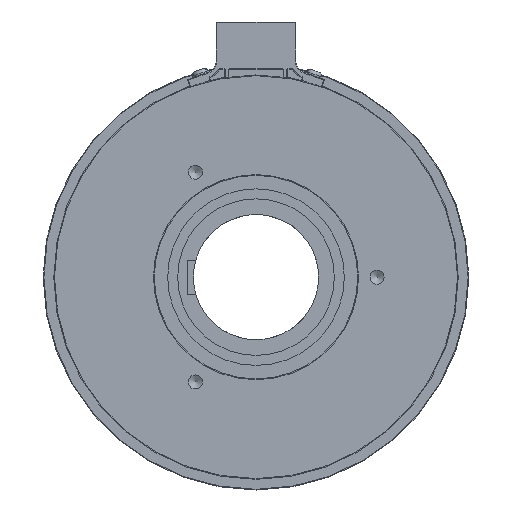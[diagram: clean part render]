
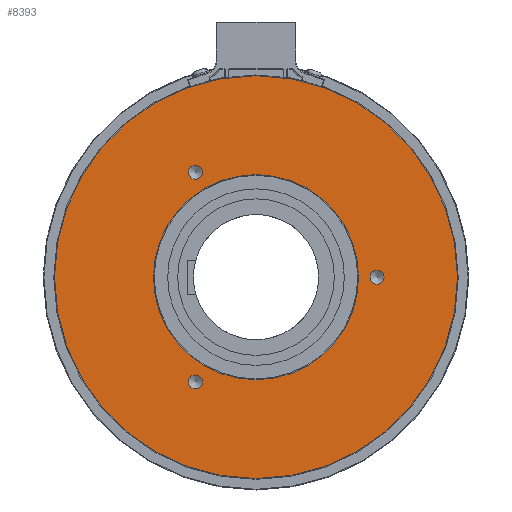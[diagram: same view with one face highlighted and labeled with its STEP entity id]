
A CAD part, left-side view. The second image highlights one B-rep face of the part: STEP entity #8393.
In plain terms, the highlighted planar face has unit normal (-1, 0, 0).
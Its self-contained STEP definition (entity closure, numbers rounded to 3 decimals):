
#218=FACE_BOUND('',#1218,.T.);
#219=FACE_BOUND('',#1219,.T.);
#220=FACE_BOUND('',#1220,.T.);
#221=FACE_BOUND('',#1221,.T.);
#349=PLANE('',#9290);
#704=FACE_OUTER_BOUND('',#1217,.T.);
#1217=EDGE_LOOP('',(#6566,#6567));
#1218=EDGE_LOOP('',(#6568,#6569));
#1219=EDGE_LOOP('',(#6570,#6571));
#1220=EDGE_LOOP('',(#6572,#6573));
#1221=EDGE_LOOP('',(#6574,#6575));
#2704=CIRCLE('',#9207,70.75);
#2705=CIRCLE('',#9208,70.75);
#2710=CIRCLE('',#9215,2.459);
#2711=CIRCLE('',#9216,2.459);
#2714=CIRCLE('',#9221,2.459);
#2715=CIRCLE('',#9222,2.459);
#2718=CIRCLE('',#9227,2.459);
#2719=CIRCLE('',#9228,2.459);
#2761=CIRCLE('',#9291,36.);
#2762=CIRCLE('',#9292,36.);
#3455=VERTEX_POINT('',#14193);
#3456=VERTEX_POINT('',#14194);
#3464=VERTEX_POINT('',#14249);
#3465=VERTEX_POINT('',#14250);
#3469=VERTEX_POINT('',#14262);
#3470=VERTEX_POINT('',#14263);
#3474=VERTEX_POINT('',#14275);
#3475=VERTEX_POINT('',#14276);
#3519=VERTEX_POINT('',#14418);
#3520=VERTEX_POINT('',#14419);
#4520=EDGE_CURVE('',#3455,#3456,#2704,.T.);
#4521=EDGE_CURVE('',#3456,#3455,#2705,.T.);
#4530=EDGE_CURVE('',#3464,#3465,#2710,.T.);
#4531=EDGE_CURVE('',#3465,#3464,#2711,.T.);
#4536=EDGE_CURVE('',#3469,#3470,#2714,.T.);
#4537=EDGE_CURVE('',#3470,#3469,#2715,.T.);
#4542=EDGE_CURVE('',#3474,#3475,#2718,.T.);
#4543=EDGE_CURVE('',#3475,#3474,#2719,.T.);
#4601=EDGE_CURVE('',#3519,#3520,#2761,.T.);
#4602=EDGE_CURVE('',#3520,#3519,#2762,.T.);
#6566=ORIENTED_EDGE('',*,*,#4520,.T.);
#6567=ORIENTED_EDGE('',*,*,#4521,.T.);
#6568=ORIENTED_EDGE('',*,*,#4530,.T.);
#6569=ORIENTED_EDGE('',*,*,#4531,.T.);
#6570=ORIENTED_EDGE('',*,*,#4536,.T.);
#6571=ORIENTED_EDGE('',*,*,#4537,.T.);
#6572=ORIENTED_EDGE('',*,*,#4542,.T.);
#6573=ORIENTED_EDGE('',*,*,#4543,.T.);
#6574=ORIENTED_EDGE('',*,*,#4601,.F.);
#6575=ORIENTED_EDGE('',*,*,#4602,.F.);
#8393=ADVANCED_FACE('',(#704,#218,#219,#220,#221),#349,.T.);
#9207=AXIS2_PLACEMENT_3D('',#14195,#11271,#11272);
#9208=AXIS2_PLACEMENT_3D('',#14196,#11273,#11274);
#9215=AXIS2_PLACEMENT_3D('',#14251,#11289,#11290);
#9216=AXIS2_PLACEMENT_3D('',#14252,#11291,#11292);
#9221=AXIS2_PLACEMENT_3D('',#14264,#11303,#11304);
#9222=AXIS2_PLACEMENT_3D('',#14265,#11305,#11306);
#9227=AXIS2_PLACEMENT_3D('',#14277,#11317,#11318);
#9228=AXIS2_PLACEMENT_3D('',#14278,#11319,#11320);
#9290=AXIS2_PLACEMENT_3D('',#14417,#11457,#11458);
#9291=AXIS2_PLACEMENT_3D('',#14420,#11459,#11460);
#9292=AXIS2_PLACEMENT_3D('',#14421,#11461,#11462);
#11271=DIRECTION('center_axis',(-1.,0.,0.));
#11272=DIRECTION('ref_axis',(0.,1.,0.));
#11273=DIRECTION('center_axis',(-1.,0.,0.));
#11274=DIRECTION('ref_axis',(0.,1.,0.));
#11289=DIRECTION('center_axis',(1.,0.,0.));
#11290=DIRECTION('ref_axis',(0.,0.,
1.));
#11291=DIRECTION('center_axis',(1.,0.,0.));
#11292=DIRECTION('ref_axis',(0.,0.,
1.));
#11303=DIRECTION('center_axis',(1.,0.,0.));
#11304=DIRECTION('ref_axis',(0.,0.,
1.));
#11305=DIRECTION('center_axis',(1.,0.,0.));
#11306=DIRECTION('ref_axis',(0.,0.,
1.));
#11317=DIRECTION('center_axis',(1.,0.,0.));
#11318=DIRECTION('ref_axis',(0.,0.,
1.));
#11319=DIRECTION('center_axis',(1.,0.,0.));
#11320=DIRECTION('ref_axis',(0.,0.,
1.));
#11457=DIRECTION('center_axis',(-1.,0.,0.));
#11458=DIRECTION('ref_axis',(0.,0.,
1.));
#11459=DIRECTION('center_axis',(-1.,0.,0.));
#11460=DIRECTION('ref_axis',(0.,1.,0.));
#11461=DIRECTION('center_axis',(-1.,0.,0.));
#11462=DIRECTION('ref_axis',(0.,1.,0.));
#14193=CARTESIAN_POINT('',(-19.5,70.75,0.));
#14194=CARTESIAN_POINT('',(-19.5,-70.75,0.));
#14195=CARTESIAN_POINT('Origin',(-19.5,0.,0.));
#14196=CARTESIAN_POINT('Origin',(-19.5,0.,0.));
#14249=CARTESIAN_POINT('',(-19.5,21.25,39.265));
#14250=CARTESIAN_POINT('',(-19.5,21.25,34.348));
#14251=CARTESIAN_POINT('Origin',(-19.5,21.25,36.806));
#14252=CARTESIAN_POINT('Origin',(-19.5,21.25,36.806));
#14262=CARTESIAN_POINT('',(-19.5,-42.5,2.459));
#14263=CARTESIAN_POINT('',(-19.5,-42.5,-2.458));
#14264=CARTESIAN_POINT('Origin',(-19.5,-42.5,0.));
#14265=CARTESIAN_POINT('Origin',(-19.5,-42.5,0.));
#14275=CARTESIAN_POINT('',(-19.5,21.25,-34.348));
#14276=CARTESIAN_POINT('',(-19.5,21.25,-39.265));
#14277=CARTESIAN_POINT('Origin',(-19.5,21.25,-36.806));
#14278=CARTESIAN_POINT('Origin',(-19.5,21.25,-36.806));
#14417=CARTESIAN_POINT('Origin',(-19.5,53.375,0.));
#14418=CARTESIAN_POINT('',(-19.5,36.,0.));
#14419=CARTESIAN_POINT('',(-19.5,-36.,0.));
#14420=CARTESIAN_POINT('Origin',(-19.5,0.,0.));
#14421=CARTESIAN_POINT('Origin',(-19.5,0.,0.));
